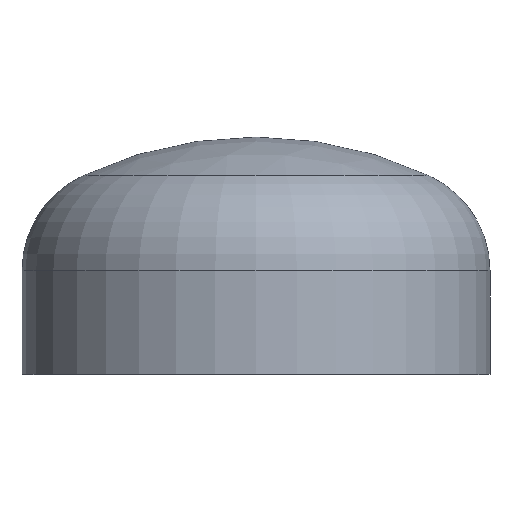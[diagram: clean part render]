
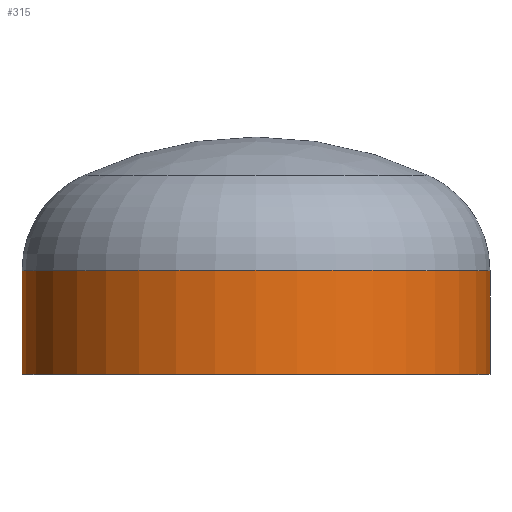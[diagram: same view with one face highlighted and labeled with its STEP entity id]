
A CAD part, top view. The second image highlights one B-rep face of the part: STEP entity #315.
In plain terms, the highlighted cylindrical face has radius 203.2 mm (diameter 406.4 mm), a partial arc.
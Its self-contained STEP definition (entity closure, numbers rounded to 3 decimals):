
#16 = DIRECTION ( 'NONE',  ( 1., 0., 0. ) ) ;
#20 = AXIS2_PLACEMENT_3D ( 'NONE', #62, #180, #41 ) ;
#32 = FACE_OUTER_BOUND ( 'NONE', #283, .T. ) ;
#41 = DIRECTION ( 'NONE',  ( 1., 0., 0. ) ) ;
#44 = AXIS2_PLACEMENT_3D ( 'NONE', #257, #255, #254 ) ;
#54 = ORIENTED_EDGE ( 'NONE', *, *, #409, .F. ) ;
#62 = CARTESIAN_POINT ( 'NONE',  ( 0., 0., 0. ) ) ;
#68 = VERTEX_POINT ( 'NONE', #247 ) ;
#77 = CARTESIAN_POINT ( 'NONE',  ( 203.2, 0., 0. ) ) ;
#81 = EDGE_CURVE ( 'NONE', #68, #382, #341, .T. ) ;
#94 = VERTEX_POINT ( 'NONE', #347 ) ;
#111 = CARTESIAN_POINT ( 'NONE',  ( -203.2, 0., 0. ) ) ;
#123 = VECTOR ( 'NONE', #313, 1000. ) ;
#136 = CARTESIAN_POINT ( 'NONE',  ( 203.2, 0., 0. ) ) ;
#137 = ORIENTED_EDGE ( 'NONE', *, *, #183, .T. ) ;
#141 = CARTESIAN_POINT ( 'NONE',  ( 0., 0., 0. ) ) ;
#142 = DIRECTION ( 'NONE',  ( 0., -1., 0. ) ) ;
#180 = DIRECTION ( 'NONE',  ( 0., -1., 0. ) ) ;
#183 = EDGE_CURVE ( 'NONE', #94, #68, #258, .T. ) ;
#193 = ORIENTED_EDGE ( 'NONE', *, *, #385, .F. ) ;
#202 = CIRCLE ( 'NONE', #225, 203.2 ) ;
#216 = VECTOR ( 'NONE', #238, 1000. ) ;
#224 = CARTESIAN_POINT ( 'NONE',  ( -203.2, 0., 0. ) ) ;
#225 = AXIS2_PLACEMENT_3D ( 'NONE', #141, #142, #16 ) ;
#238 = DIRECTION ( 'NONE',  ( 0., -1., 0. ) ) ;
#244 = ORIENTED_EDGE ( 'NONE', *, *, #81, .T. ) ;
#247 = CARTESIAN_POINT ( 'NONE',  ( -203.2, 90., 0. ) ) ;
#254 = DIRECTION ( 'NONE',  ( 1., 0., 0. ) ) ;
#255 = DIRECTION ( 'NONE',  ( 0., -1., 0. ) ) ;
#257 = CARTESIAN_POINT ( 'NONE',  ( 0., 90., 0. ) ) ;
#258 = CIRCLE ( 'NONE', #44, 203.2 ) ;
#283 = EDGE_LOOP ( 'NONE', ( #137, #244, #54, #193 ) ) ;
#289 = VERTEX_POINT ( 'NONE', #77 ) ;
#313 = DIRECTION ( 'NONE',  ( 0., -1., 0. ) ) ;
#315 = ADVANCED_FACE ( 'NONE', ( #32 ), #410, .T. ) ;
#341 = LINE ( 'NONE', #224, #216 ) ;
#347 = CARTESIAN_POINT ( 'NONE',  ( 203.2, 90., 0. ) ) ;
#382 = VERTEX_POINT ( 'NONE', #111 ) ;
#385 = EDGE_CURVE ( 'NONE', #94, #289, #392, .T. ) ;
#392 = LINE ( 'NONE', #136, #123 ) ;
#409 = EDGE_CURVE ( 'NONE', #289, #382, #202, .T. ) ;
#410 = CYLINDRICAL_SURFACE ( 'NONE', #20, 203.2 ) ;
